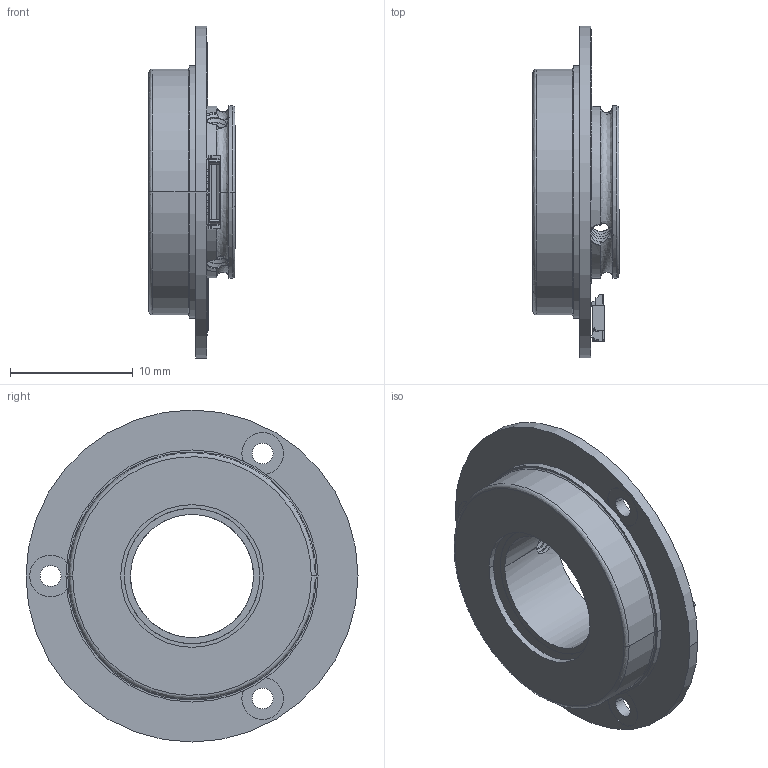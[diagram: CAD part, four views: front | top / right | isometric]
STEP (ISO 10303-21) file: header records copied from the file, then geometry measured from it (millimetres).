
FILE_DESCRIPTION (( 'STEP AP214' ), '1' );
FILE_NAME ('MBS-10-27¸üÐÂ.STEP', '2024-07-09T08:38:54', ( '' ), ( '' ), 'SwSTEP 2.0', 'SolidWorks 2016', '' );
FILE_SCHEMA (( 'AUTOMOTIVE_DESIGN' ));
Length unit declared in the file: millimetre
Products named in the file (1): MBS-10-27載陔
Bounding box: 7.01 x 27 x 27 mm (x, y, z)
Volume: 997.3 mm3; surface area: 2892.9 mm2
Topology: 6 solids, 26 shells, 712 faces, 1855 edges, 1226 vertices
Faces by surface type: plane 475, bspline 161, cylinder 69, cone 7
Entity records: 46700 total; most frequent: CARTESIAN_POINT 27542, ORIENTED_EDGE 3708, DIRECTION 2708, EDGE_CURVE 1854, VECTOR 1324, LINE 1324, VERTEX_POINT 1226, EDGE_LOOP 772
